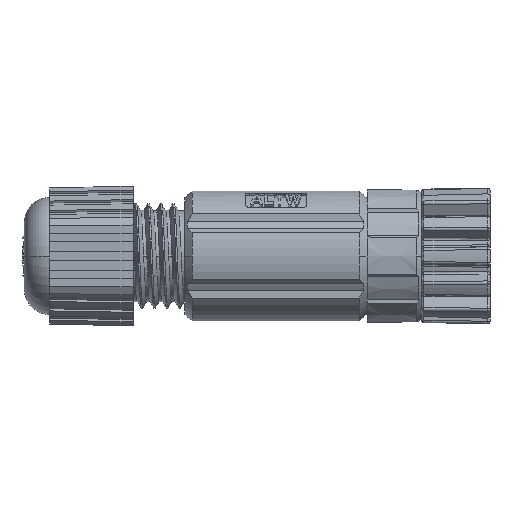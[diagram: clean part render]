
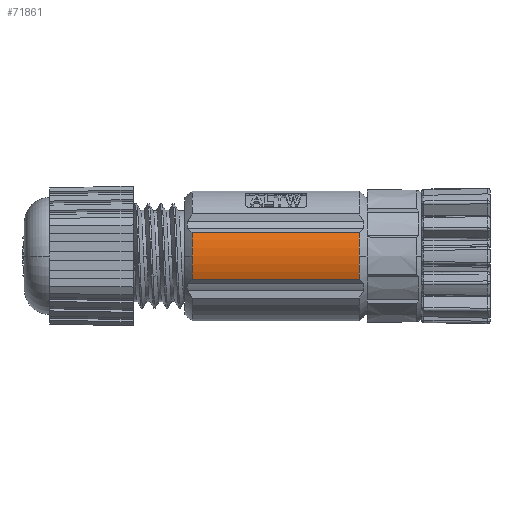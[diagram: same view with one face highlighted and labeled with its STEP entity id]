
A CAD part, front view. The second image highlights one B-rep face of the part: STEP entity #71861.
In plain terms, the highlighted cylindrical face has radius 7.85 mm (diameter 15.7 mm), a partial arc.
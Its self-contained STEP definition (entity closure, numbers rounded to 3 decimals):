
#18362=DIRECTION('',(1.,0.,0.));
#18363=VECTOR('',#18362,20.);
#18364=CARTESIAN_POINT('',(20.05,-7.329,2.812));
#18365=LINE('',#18364,#18363);
#18366=CARTESIAN_POINT('',(40.05,0.,0.));
#18367=DIRECTION('',(1.,0.,0.));
#18368=DIRECTION('',(0.,-0.934,0.358));
#18369=AXIS2_PLACEMENT_3D('',#18366,#18367,#18368);
#18371=CARTESIAN_POINT('',(40.05,0.,0.));
#18372=DIRECTION('',(1.,0.,0.));
#18373=DIRECTION('',(0.,-1.,0.));
#18374=AXIS2_PLACEMENT_3D('',#18371,#18372,#18373);
#18376=DIRECTION('',(1.,0.,0.));
#18377=VECTOR('',#18376,20.);
#18378=CARTESIAN_POINT('',(20.05,-7.329,-2.812));
#18379=LINE('',#18378,#18377);
#18380=CARTESIAN_POINT('',(20.05,0.,0.));
#18381=DIRECTION('',(1.,0.,0.));
#18382=DIRECTION('',(0.,-1.,0.));
#18383=AXIS2_PLACEMENT_3D('',#18380,#18381,#18382);
#18385=CARTESIAN_POINT('',(20.05,0.,0.));
#18386=DIRECTION('',(1.,0.,0.));
#18387=DIRECTION('',(0.,-0.934,0.358));
#18388=AXIS2_PLACEMENT_3D('',#18385,#18386,#18387);
#44220=CARTESIAN_POINT('',(20.05,-7.85,0.));
#44221=VERTEX_POINT('',#44220);
#44242=CARTESIAN_POINT('',(20.05,-7.329,-2.812));
#44243=CARTESIAN_POINT('',(40.05,-7.329,-2.812));
#44244=VERTEX_POINT('',#44242);
#44245=VERTEX_POINT('',#44243);
#44250=CARTESIAN_POINT('',(40.05,-7.85,0.));
#44251=VERTEX_POINT('',#44250);
#44578=CARTESIAN_POINT('',(20.05,-7.329,2.812));
#44579=CARTESIAN_POINT('',(40.05,-7.329,2.812));
#44580=VERTEX_POINT('',#44578);
#44581=VERTEX_POINT('',#44579);
#71846=CARTESIAN_POINT('',(1.165,0.,0.));
#71847=DIRECTION('',(1.,0.,0.));
#71848=DIRECTION('',(0.,-1.,0.));
#71849=AXIS2_PLACEMENT_3D('',#71846,#71847,#71848);
#71850=CYLINDRICAL_SURFACE('',#71849,7.85);
#71852=ORIENTED_EDGE('',*,*,#71851,.T.);
#71853=ORIENTED_EDGE('',*,*,#55316,.T.);
#71854=ORIENTED_EDGE('',*,*,#71647,.T.);
#71856=ORIENTED_EDGE('',*,*,#71855,.F.);
#71857=ORIENTED_EDGE('',*,*,#71808,.F.);
#71858=ORIENTED_EDGE('',*,*,#55215,.F.);
#71859=EDGE_LOOP('',(#71852,#71853,#71854,#71856,#71857,#71858));
#71860=FACE_OUTER_BOUND('',#71859,.F.);
#71861=ADVANCED_FACE('',(#71860),#71850,.T.);
#18370=CIRCLE('',#18369,7.85);
#18375=CIRCLE('',#18374,7.85);
#18384=CIRCLE('',#18383,7.85);
#18389=CIRCLE('',#18388,7.85);
#55215=EDGE_CURVE('',#44580,#44221,#18389,.T.);
#55316=EDGE_CURVE('',#44581,#44251,#18370,.T.);
#71647=EDGE_CURVE('',#44251,#44245,#18375,.T.);
#71808=EDGE_CURVE('',#44221,#44244,#18384,.T.);
#71851=EDGE_CURVE('',#44580,#44581,#18365,.T.);
#71855=EDGE_CURVE('',#44244,#44245,#18379,.T.);
